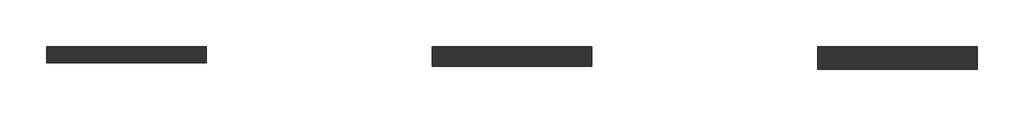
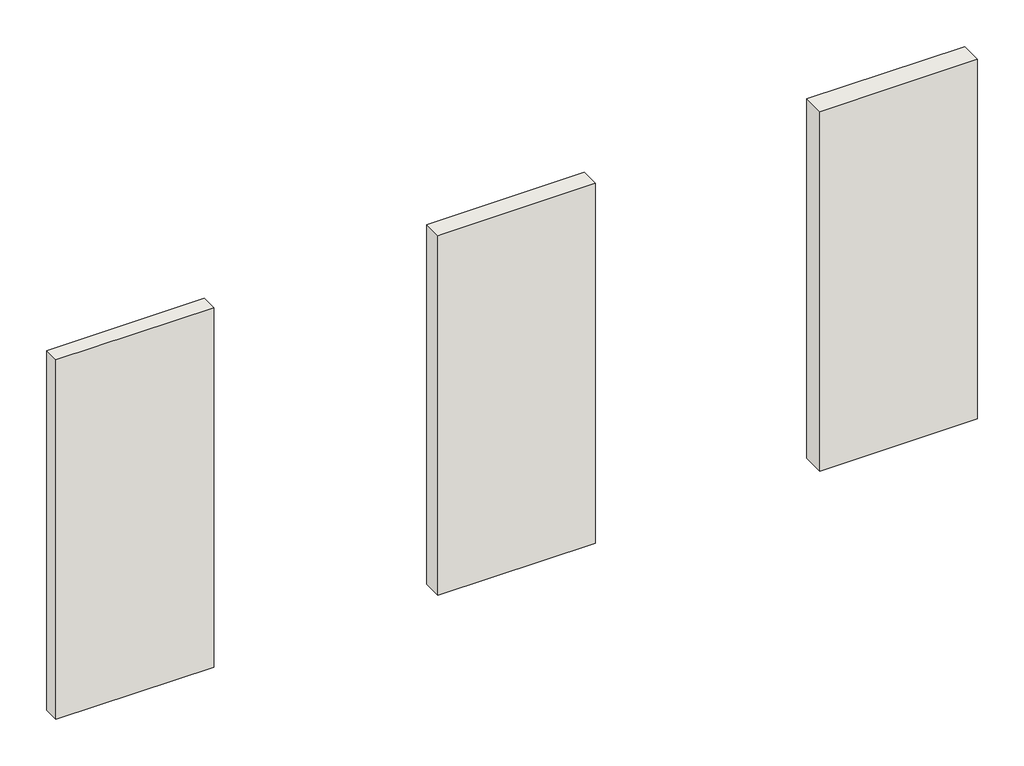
# One storey: 3 walls.
"""IFC4 building model written with IfcOpenShell, lengths in millimetres."""

from ifc_helpers import new_model, si_unit, origin, origin_with_axes, place, context, project, spatial, polyline, outline, extrude, element, save

model = new_model("IFC4")

# Units and contexts
model_context = context("Model", 3, world=origin())
ifc_project = project(units=[si_unit("LENGTHUNIT", "METRE", prefix="MILLI")], contexts=[model_context])

# Site, building, storey
site = spatial("IfcSite", under=ifc_project)
building = spatial("IfcBuilding", under=site)
storey = spatial("IfcBuildingStorey", under=building, Name="Уровень 1", Elevation=0.0)

# Walls
placement = place(None, origin())
element("IfcWall", 1, ObjectType="Перегородка-КНАУФ-С118-Применение внутри здания-127/50@600 ГСП 12.5", at=placement, inside=storey, context=model_context, shape_type="SweptSolid", body=[
    extrude(outline(polyline([(-9315.7236634, 13483.2135262), (-10560.2640717, 13483.2135262), (-10560.2640717, 13610.1935262), (-9315.7236634, 13610.1935262), (-9315.7236634, 13483.2135262)])), origin_with_axes(), (0.0, 0.0, 1.0), 3000.0),
])
element("IfcWall", 2, ObjectType="Перегородка-КНАУФ-С118-Применение внутри здания-152/75@600 ГСП 12.5", at=placement, inside=storey, context=model_context, shape_type="SweptSolid", body=[
    extrude(outline(polyline([(-6315.7236634, 13458.2135262), (-7560.2640717, 13458.2135262), (-7560.2640717, 13610.1935262), (-6315.7236634, 13610.1935262), (-6315.7236634, 13458.2135262)])), origin_with_axes(), (0.0, 0.0, 1.0), 3000.0),
])
element("IfcWall", 3, ObjectType="Перегородка-КНАУФ-С118-Применение внутри здания-177/100@600 ГСП 12.5", at=placement, inside=storey, context=model_context, shape_type="SweptSolid", body=[
    extrude(outline(polyline([(-3315.7236634, 13433.2135262), (-4560.2640717, 13433.2135262), (-4560.2640717, 13610.1935262), (-3315.7236634, 13610.1935262), (-3315.7236634, 13433.2135262)])), origin_with_axes(), (0.0, 0.0, 1.0), 3000.0),
])

save(model, "model.ifc")
